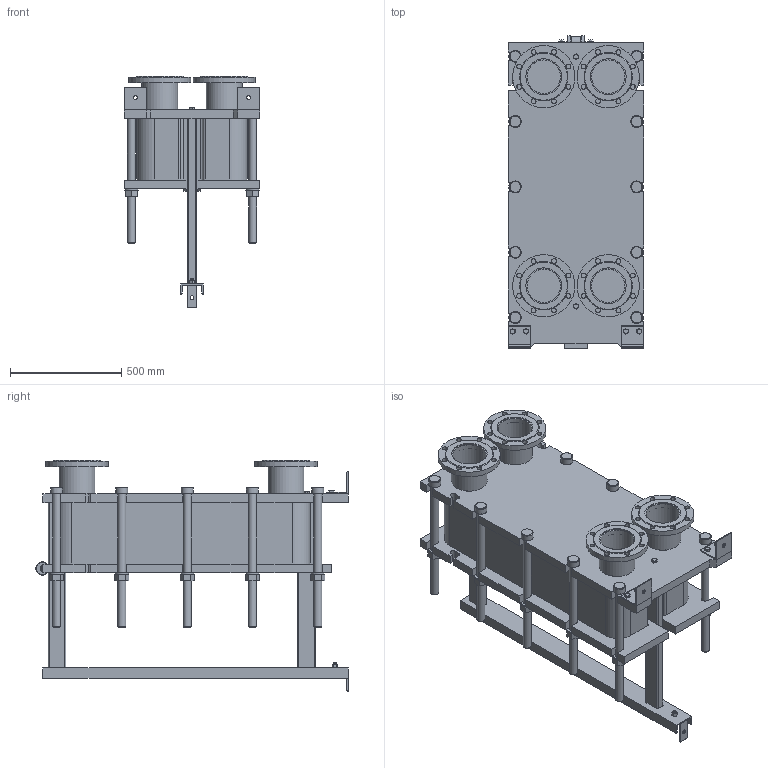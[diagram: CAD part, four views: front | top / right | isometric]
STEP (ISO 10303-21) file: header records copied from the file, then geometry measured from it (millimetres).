
FILE_DESCRIPTION(/* description */ (''),/* implementation_level */ '2;1');
FILE_NAME(/* name */ 'C:\Users\zhuro\Desktop\ENCO\TO\ЭН-041\ЭН-0,5-041-80-1.stp',/* time_stamp */ '2022-06-06T10:56:10+03:00',/* author */ ('zhuro'),/* organization */ (''),/* preprocessor_version */ 'ST-DEVELOPER v18.1',/* originating_system */ 'Autodesk Inventor 2022',/* authorisation */ '');
FILE_SCHEMA (('AUTOMOTIVE_DESIGN { 1 0 10303 214 3 1 1 }'));
Length unit declared in the file: millimetre
Products named in the file (1): ЭН-0,5-041-80-1
Bounding box: 610 x 1406.5 x 1040 mm (x, y, z)
Volume: 234300389.7 mm3; surface area: 8583527.5 mm2
Topology: 52 solids, 52 shells, 711 faces, 1696 edges, 1094 vertices
Faces by surface type: plane 487, cylinder 177, cone 41, torus 6
Full cylindrical faces by diameter (mm): 8 x4, 10 x2, 16 x8, 18 x3, 22 x32, 36 x24, 50 x1, 54 x10, 60 x12, 151 x4, 161 x8, 280 x4
Entity records: 22667 total; most frequent: CARTESIAN_POINT 5230, DIRECTION 3644, ORIENTED_EDGE 3392, EDGE_CURVE 1696, AXIS2_PLACEMENT_3D 1272, LINE 1100, VECTOR 1100, VERTEX_POINT 1094
